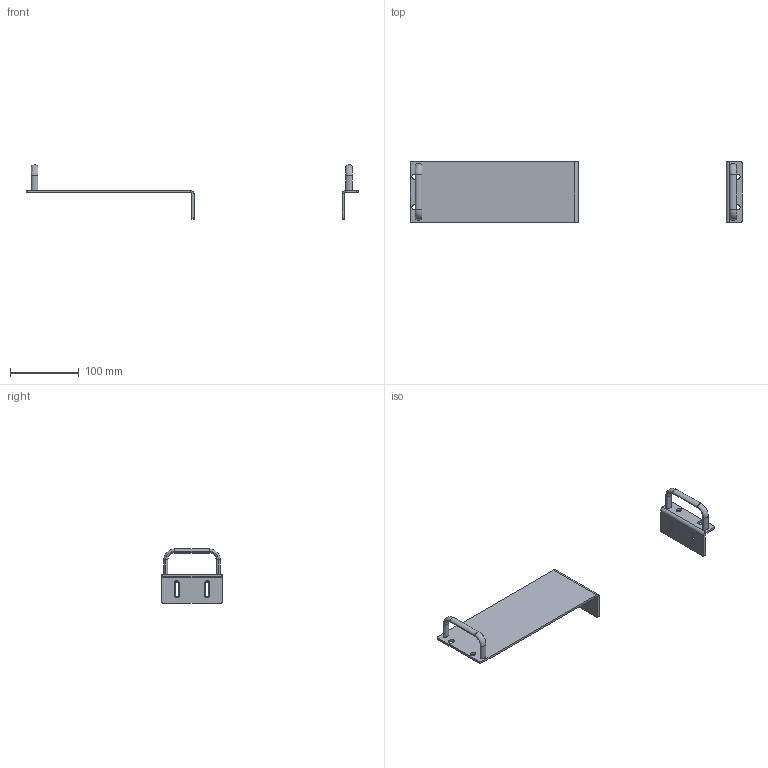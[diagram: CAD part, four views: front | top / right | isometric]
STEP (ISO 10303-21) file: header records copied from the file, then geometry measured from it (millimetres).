
FILE_DESCRIPTION (( 'STEP AP214' ), '1' );
FILE_NAME ('RM-1_2.STEP', '2023-04-25T14:14:03', ( '' ), ( '' ), 'SwSTEP 2.0', 'SolidWorks 2020', '' );
FILE_SCHEMA (( 'AUTOMOTIVE_DESIGN' ));
Length unit declared in the file: inch
Products named in the file (1): RM-1_2
Bounding box: 482.68 x 88.65 x 78.87 mm (x, y, z)
Volume: 108693.2 mm3; surface area: 71047.9 mm2
Topology: 4 solids, 4 shells, 152 faces, 364 edges, 216 vertices
Faces by surface type: cylinder 52, plane 52, cone 28, bspline 20
Entity records: 6521 total; most frequent: CARTESIAN_POINT 1001, DIRECTION 730, ORIENTED_EDGE 712, EDGE_CURVE 356, AXIS2_PLACEMENT_3D 265, VERTEX_POINT 216, VECTOR 200, LINE 200
